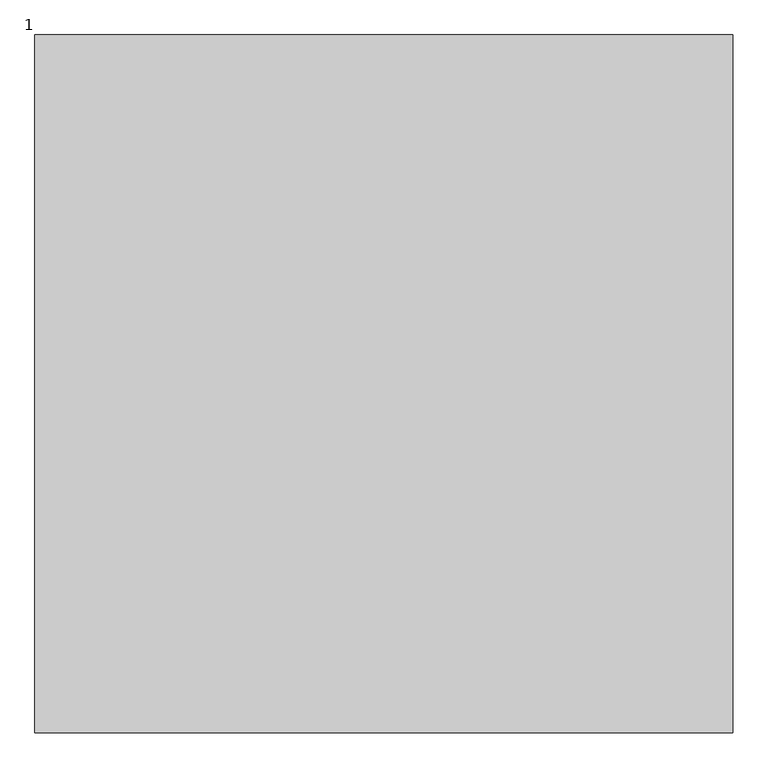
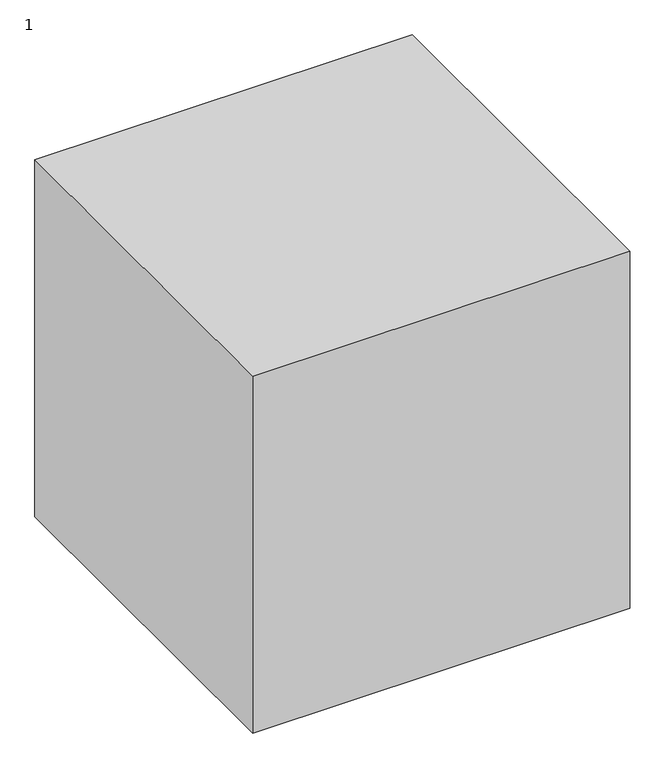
"""IFC4 building model written with IfcOpenShell, lengths in millimetres: proxy geometry, 1231111 : 1."""

from ifc_helpers import new_model, si_unit, origin, origin_with_axes, place, context, project, spatial, polyline, outline, extrude, source, transform, mapped, element, save


def proxy_1_bed377d2(model_context):
    return source(origin(), model_context, "Body", "SweptSolid", [
        extrude(outline(polyline([(-26307.9756708, -8664.7705528), (-26307.9756708, -9664.7705528), (-27307.9756708, -9664.7705528), (-27307.9756708, -8664.7705528), (-26307.9756708, -8664.7705528)])), origin_with_axes(), (0.0, 0.0, 1.0), 1000.0),
    ])


if __name__ == "__main__":
    model = new_model("IFC4")
    model_context = context("Model", 3, world=origin())
    ifc_project = project(units=[si_unit("LENGTHUNIT", "METRE", prefix="MILLI")], contexts=[model_context])
    site = spatial("IfcSite", under=ifc_project)
    building = spatial("IfcBuilding", under=site)
    placement = place(None, origin())
    proxy_1_shape = proxy_1_bed377d2(model_context)
    element("IfcBuildingElementProxy", 1, Name="1231111 : 1", ObjectType="1231111 : 1", at=placement, inside=building, context=model_context, shape_type="MappedRepresentation", body=[
        mapped(proxy_1_shape, transform((0.0, 0.0, 0.0), x_axis=(1.0, 0.0, 0.0), y_axis=(0.0, 1.0, 0.0), z_axis=(0.0, 0.0, 1.0))),
    ])
    save(model, "model.ifc")
